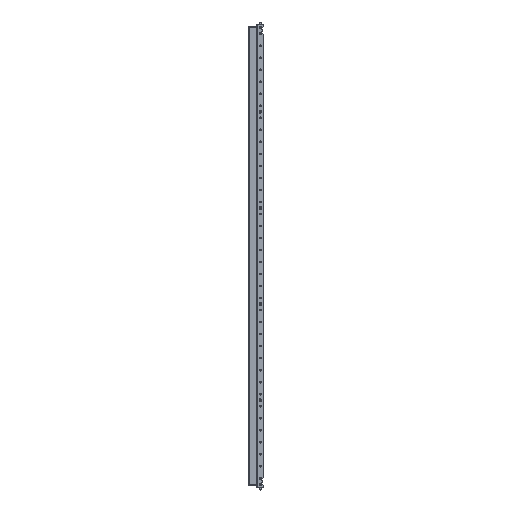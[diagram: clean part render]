
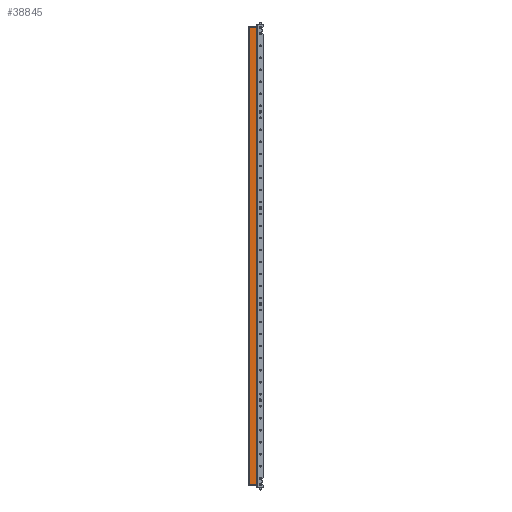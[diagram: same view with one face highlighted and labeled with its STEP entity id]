
A CAD part, front view. The second image highlights one B-rep face of the part: STEP entity #38845.
In plain terms, the highlighted planar face has unit normal (0, -1, 0).
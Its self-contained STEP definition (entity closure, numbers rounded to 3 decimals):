
#1922 = LINE ( 'NONE', #19999, #49731 ) ;
#2482 = VECTOR ( 'NONE', #25071, 1000. ) ;
#2802 = DIRECTION ( 'NONE',  ( -1., 0., 0. ) ) ;
#3101 = VERTEX_POINT ( 'NONE', #13282 ) ;
#3455 = CARTESIAN_POINT ( 'NONE',  ( -26.493, -9.122, 2878. ) ) ;
#4652 = DIRECTION ( 'NONE',  ( 0., 1., 0. ) ) ;
#6977 = LINE ( 'NONE', #33697, #2482 ) ;
#8190 = EDGE_CURVE ( 'NONE', #21947, #36297, #6977, .T. ) ;
#10249 = CARTESIAN_POINT ( 'NONE',  ( 0.607, -9.122, 2878. ) ) ;
#10273 = CARTESIAN_POINT ( 'NONE',  ( -26.493, -9.122, 976. ) ) ;
#12444 = VERTEX_POINT ( 'NONE', #32803 ) ;
#12930 = VECTOR ( 'NONE', #38877, 1000. ) ;
#13282 = CARTESIAN_POINT ( 'NONE',  ( 0.607, -9.122, 976. ) ) ;
#13291 = EDGE_CURVE ( 'NONE', #40386, #56544, #48069, .T. ) ;
#13526 = PLANE ( 'NONE',  #44047 ) ;
#15048 = ORIENTED_EDGE ( 'NONE', *, *, #18496, .F. ) ;
#15967 = EDGE_CURVE ( 'NONE', #45213, #12444, #21355, .T. ) ;
#16299 = CARTESIAN_POINT ( 'NONE',  ( -29.693, -9.122, 2890.5 ) ) ;
#18496 = EDGE_CURVE ( 'NONE', #55791, #56544, #22030, .T. ) ;
#19524 = ORIENTED_EDGE ( 'NONE', *, *, #13291, .T. ) ;
#19615 = CARTESIAN_POINT ( 'NONE',  ( -28.193, -9.122, 976. ) ) ;
#19999 = CARTESIAN_POINT ( 'NONE',  ( -28.193, -9.122, 2878. ) ) ;
#20624 = VECTOR ( 'NONE', #28750, 1000. ) ;
#21355 = LINE ( 'NONE', #30268, #29615 ) ;
#21947 = VERTEX_POINT ( 'NONE', #10249 ) ;
#22030 = LINE ( 'NONE', #27374, #36292 ) ;
#22736 = FACE_OUTER_BOUND ( 'NONE', #43006, .T. ) ;
#23329 = ORIENTED_EDGE ( 'NONE', *, *, #52388, .T. ) ;
#25071 = DIRECTION ( 'NONE',  ( -1., 0., 0. ) ) ;
#27185 = CARTESIAN_POINT ( 'NONE',  ( -28.193, -9.122, 2890.5 ) ) ;
#27374 = CARTESIAN_POINT ( 'NONE',  ( -31.293, -9.122, 976. ) ) ;
#27419 = DIRECTION ( 'NONE',  ( 1., 0., 0. ) ) ;
#28750 = DIRECTION ( 'NONE',  ( 1., 0., 0. ) ) ;
#29615 = VECTOR ( 'NONE', #39146, 1000. ) ;
#29659 = DIRECTION ( 'NONE',  ( 0., 0., -1. ) ) ;
#30268 = CARTESIAN_POINT ( 'NONE',  ( 2.307, -9.122, 2890.5 ) ) ;
#31948 = VECTOR ( 'NONE', #27419, 1000. ) ;
#32444 = LINE ( 'NONE', #50535, #31948 ) ;
#32803 = CARTESIAN_POINT ( 'NONE',  ( 2.307, -9.122, 976. ) ) ;
#33220 = CARTESIAN_POINT ( 'NONE',  ( -28.193, -9.122, 976. ) ) ;
#33279 = LINE ( 'NONE', #19615, #12930 ) ;
#33499 = LINE ( 'NONE', #33220, #20624 ) ;
#33697 = CARTESIAN_POINT ( 'NONE',  ( -28.193, -9.122, 2878. ) ) ;
#36253 = DIRECTION ( 'NONE',  ( -1., 0., 0. ) ) ;
#36292 = VECTOR ( 'NONE', #36253, 1000. ) ;
#36297 = VERTEX_POINT ( 'NONE', #3455 ) ;
#37016 = CARTESIAN_POINT ( 'NONE',  ( 2.307, -9.122, 2878. ) ) ;
#37789 = EDGE_CURVE ( 'NONE', #36297, #40386, #1922, .T. ) ;
#38845 = ADVANCED_FACE ( 'NONE', ( #22736 ), #13526, .F. ) ;
#38877 = DIRECTION ( 'NONE',  ( 1., 0., 0. ) ) ;
#39146 = DIRECTION ( 'NONE',  ( 0., 0., -1. ) ) ;
#39497 = ORIENTED_EDGE ( 'NONE', *, *, #15967, .F. ) ;
#39980 = ORIENTED_EDGE ( 'NONE', *, *, #50864, .T. ) ;
#40093 = VECTOR ( 'NONE', #29659, 1000. ) ;
#40386 = VERTEX_POINT ( 'NONE', #43159 ) ;
#43006 = EDGE_LOOP ( 'NONE', ( #19524, #15048, #23329, #39980, #39497, #47574, #53442, #52007 ) ) ;
#43159 = CARTESIAN_POINT ( 'NONE',  ( -29.693, -9.122, 2878. ) ) ;
#44047 = AXIS2_PLACEMENT_3D ( 'NONE', #27185, #4652, #45272 ) ;
#45213 = VERTEX_POINT ( 'NONE', #37016 ) ;
#45272 = DIRECTION ( 'NONE',  ( 0., 0., 1. ) ) ;
#47574 = ORIENTED_EDGE ( 'NONE', *, *, #52960, .F. ) ;
#48069 = LINE ( 'NONE', #16299, #40093 ) ;
#49324 = CARTESIAN_POINT ( 'NONE',  ( -29.693, -9.122, 976. ) ) ;
#49731 = VECTOR ( 'NONE', #2802, 1000. ) ;
#50535 = CARTESIAN_POINT ( 'NONE',  ( -31.293, -9.122, 2878. ) ) ;
#50864 = EDGE_CURVE ( 'NONE', #3101, #12444, #33279, .T. ) ;
#52007 = ORIENTED_EDGE ( 'NONE', *, *, #37789, .T. ) ;
#52388 = EDGE_CURVE ( 'NONE', #55791, #3101, #33499, .T. ) ;
#52960 = EDGE_CURVE ( 'NONE', #21947, #45213, #32444, .T. ) ;
#53442 = ORIENTED_EDGE ( 'NONE', *, *, #8190, .T. ) ;
#55791 = VERTEX_POINT ( 'NONE', #10273 ) ;
#56544 = VERTEX_POINT ( 'NONE', #49324 ) ;
